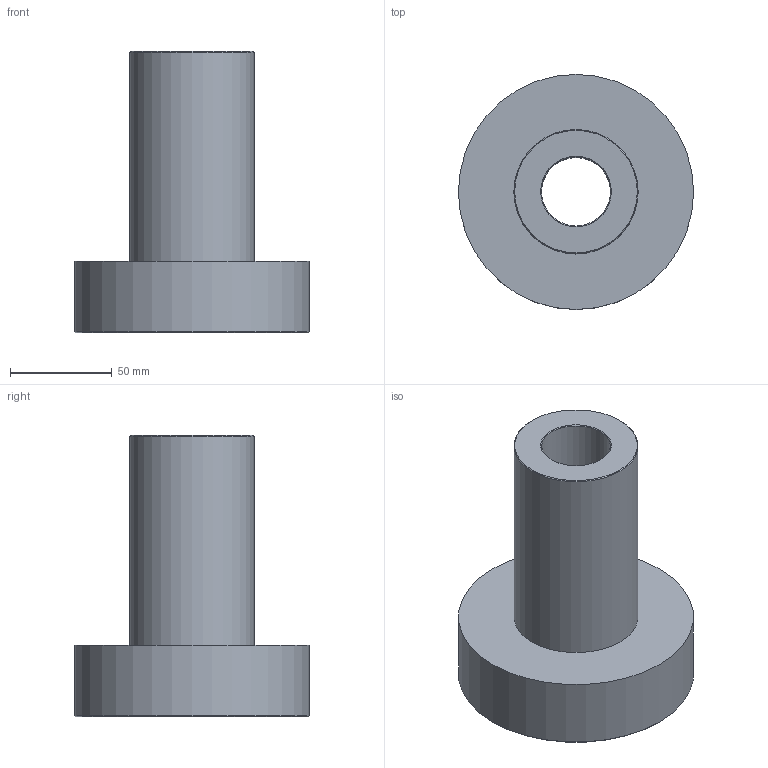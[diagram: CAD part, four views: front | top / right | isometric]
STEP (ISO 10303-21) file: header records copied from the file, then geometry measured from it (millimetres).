
FILE_DESCRIPTION(('Mechanical CAD reference from nasji.com'),'2;1');
FILE_NAME('NASJI.step','',(''),(''),'','NASJI distribution','');
FILE_SCHEMA(('AUTOMOTIVE_DESIGN { 1 0 10303 214 1 1 1 1 }'));
Length unit declared in the file: millimetre
Products named in the file (1): Open CASCADE STEP translator 7.8 26
Bounding box: 115.3 x 115.3 x 137.9 mm (x, y, z)
Volume: 540826.4 mm3; surface area: 65905.7 mm2
Topology: 1 solids, 1 shells, 10 faces, 17 edges, 10 vertices
Faces by surface type: cone 4, plane 3, cylinder 3
Full cylindrical faces by diameter (mm): 33.8 x1, 60.92 x1, 115.3 x1
Entity records: 466 total; most frequent: CARTESIAN_POINT 80, DIRECTION 75, ORIENTED_EDGE 34, PCURVE 34, DEFINITIONAL_REPRESENTATION 34, LINE 27, VECTOR 27, AXIS2_PLACEMENT_3D 21
